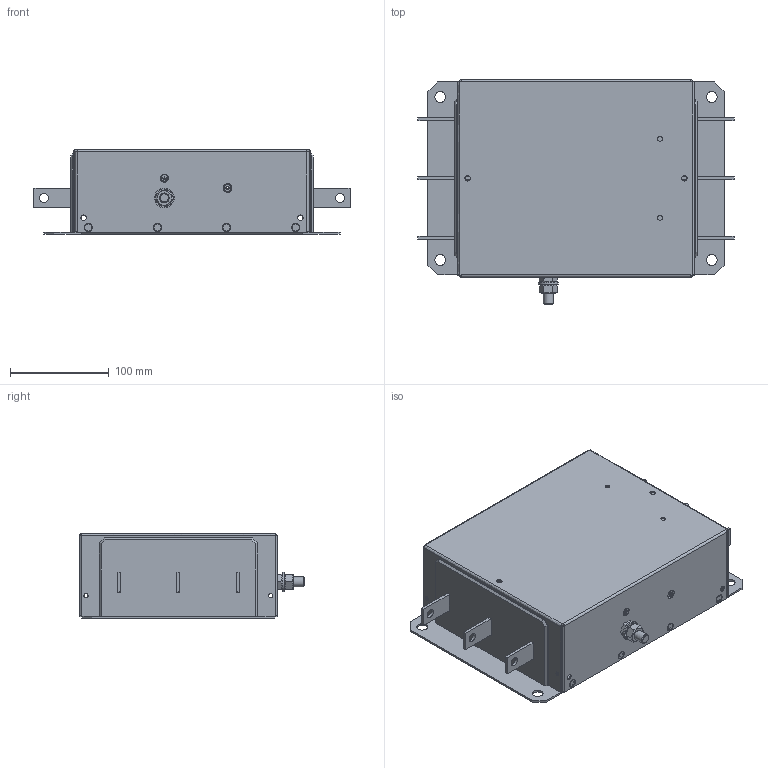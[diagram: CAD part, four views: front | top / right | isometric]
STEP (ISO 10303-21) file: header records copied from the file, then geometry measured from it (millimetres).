
FILE_DESCRIPTION((''),'2;1');
FILE_NAME('L:\INVENTOR_Projektedaten\HousingDesign\FN3270H-150-99.stp','2012-09-03T10:42:14',('Samuel.Meier'),(''),'Autodesk Inventor 2010','Autodesk Inventor 2010','');
FILE_SCHEMA(('AUTOMOTIVE_DESIGN { 1 2 10303 214 0 1 1 1 }'));
Length unit declared in the file: millimetre
Products named in the file (1): Bauteil12
Bounding box: 320 x 227.6 x 86 mm (x, y, z)
Volume: 444522.3 mm3; surface area: 442878 mm2
Topology: 1 solids, 3 shells, 625 faces, 1606 edges, 1022 vertices
Faces by surface type: plane 369, cylinder 119, bspline 112, cone 25
Full cylindrical faces by diameter (mm): 3.3 x1, 4.1 x10, 4.3 x6, 4.8 x2, 5.5 x3, 7 x1, 8 x1, 9 x3, 10 x3, 10.5 x1, 11 x2, 14.63 x1, 20 x1
Entity records: 19644 total; most frequent: CARTESIAN_POINT 4384, ORIENTED_EDGE 2974, DIRECTION 2878, EDGE_CURVE 1487, VECTOR 1020, LINE 1020, VERTEX_POINT 991, AXIS2_PLACEMENT_3D 929
